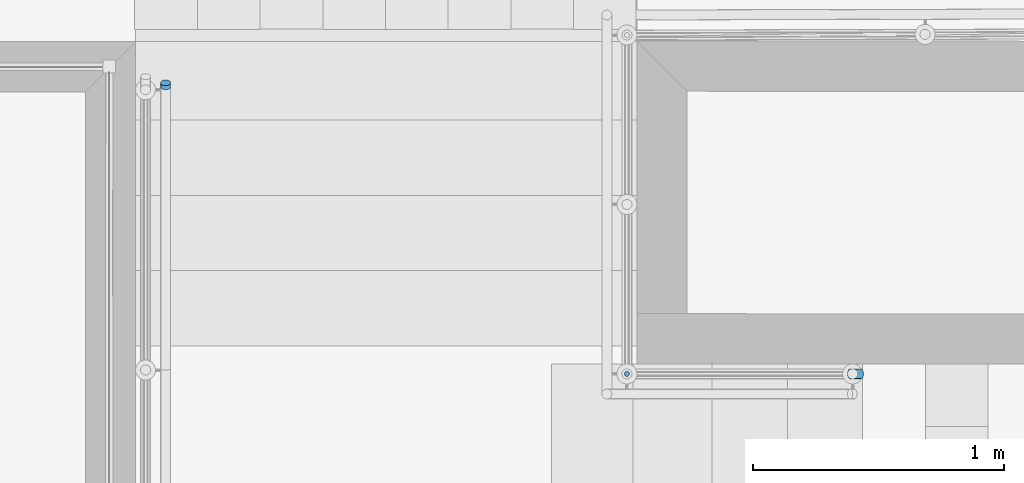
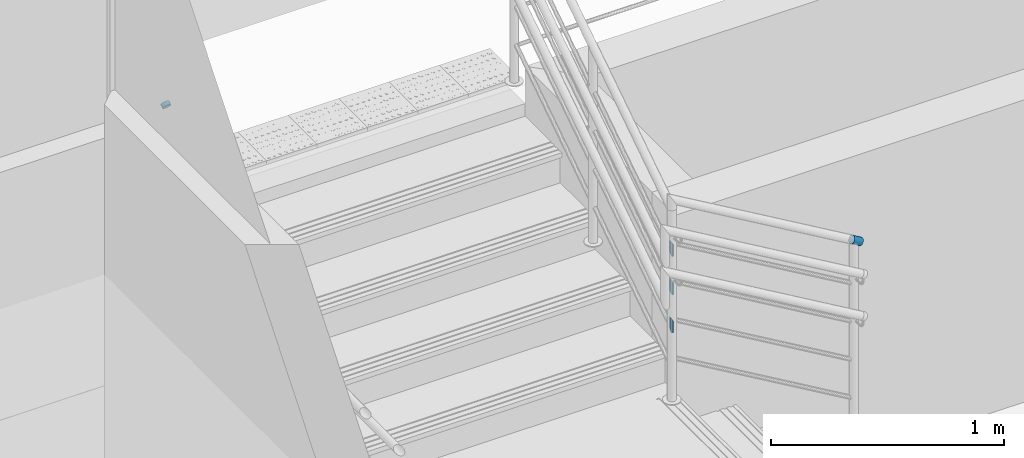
# One storey, part 144 of 237: 6 building element parts, 2 elements without a shape of their own.
"""IFC2X3 building model written with IfcOpenShell, lengths in millimetres."""

from ifc_helpers import new_model, entity, si_unit, converted_unit, derived_unit, money_unit, direction, frame, origin_with_axes, place, context, subcontext, project, spatial, faceted_brep, material, type_object, element, aggregate, save


model = new_model("IFC2X3")

# Units and contexts
model_context = context("Model", 3, precision=0.01, world=origin_with_axes(), true_north=direction((0.0, 1.0)))
body_context = subcontext(model_context, "Body", "Model", "MODEL_VIEW")
ifc_project = project(units=[si_unit("LENGTHUNIT", "METRE", prefix="MILLI"), si_unit("AREAUNIT", "SQUARE_METRE"), si_unit("VOLUMEUNIT", "CUBIC_METRE"), converted_unit("PLANEANGLEUNIT", "DEGREE", entity("IfcPlaneAngleMeasure", 0.0174532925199), si_unit("PLANEANGLEUNIT", "RADIAN"), dimensions=[0, 0, 0, 0, 0, 0, 0]), money_unit("USD"), converted_unit("TIMEUNIT", "Year", entity("IfcTimeMeasure", 31556926.0), si_unit("TIMEUNIT", "SECOND"), dimensions=[0, 0, 1, 0, 0, 0, 0]), si_unit("MASSUNIT", "GRAM", prefix="KILO"), si_unit("THERMODYNAMICTEMPERATUREUNIT", "DEGREE_CELSIUS"), si_unit("LUMINOUSINTENSITYUNIT", "LUMEN"), si_unit("ENERGYUNIT", "JOULE", prefix="MEGA"), derived_unit("THERMALCONDUCTANCEUNIT", [(si_unit("POWERUNIT", "WATT"), 1), (si_unit("LENGTHUNIT", "METRE"), -1), (si_unit("THERMODYNAMICTEMPERATUREUNIT", "KELVIN"), -1)]), derived_unit("SPECIFICHEATCAPACITYUNIT", [(si_unit("ENERGYUNIT", "JOULE"), 1), (si_unit("MASSUNIT", "GRAM", prefix="KILO"), -1), (si_unit("THERMODYNAMICTEMPERATUREUNIT", "KELVIN"), -1)]), derived_unit("MASSDENSITYUNIT", [(si_unit("MASSUNIT", "GRAM", prefix="KILO"), 1), (si_unit("VOLUMEUNIT", "CUBIC_METRE"), -1)])], contexts=[model_context])

# Site, building, storey
site_placement = place(None, origin_with_axes())
site = spatial("IfcSite", under=ifc_project, at=site_placement, Name="Local", CompositionType="ELEMENT")
building_placement = place(site_placement, origin_with_axes())
building = spatial("IfcBuilding", under=site, at=building_placement, Name="Construção", CompositionType="ELEMENT")
storey_placement = place(building_placement, origin_with_axes())
storey = spatial("IfcBuildingStorey", under=building, at=storey_placement, Name="Pavimento Térreo", CompositionType="ELEMENT", Elevation=0.0)

# Railing, building element part
railing_type = type_object("IfcRailingType", Name="Tipo de Guarda-Corpo", PredefinedType="NOTDEFINED")
railing_1_placement = place(storey_placement, frame((77071.0413397, 23732.4143775, -4865.39060156), z_axis=(0.0, 0.0, 1.0), x_axis=(1.0, 0.0, 0.0)))
railing_1 = element("IfcRailing", 1, at=railing_1_placement, inside=storey, type_object=railing_type, Name="Guarda-Corpo - 001", PredefinedType="NOTDEFINED")
ifc_material = material(Name="Aço - Inoxidável")
building_element_part_1_placement = place(railing_1_placement, origin_with_axes())
building_element_part_1 = element("IfcBuildingElementPart", 2, at=building_element_part_1_placement, material=ifc_material, Name="Aço - Inoxidável", context=body_context, shape_type="Brep", body=[
    faceted_brep([(1797.91815812, -254.940737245, 2009.93461638), (1798.22200306, -256.971998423, 2012.75161015), (1798.22200306, -240.749577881, 2024.44917707), (1797.91815812, -238.718316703, 2021.6321833), (1798.22200306, -252.909476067, 2007.11762262), (1799.12430571, -250.939933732, 2004.38622179), (1800.59765005, -249.091953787, 2001.82340611), (1802.59726926, -247.421686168, 1999.50704546), (1805.06240593, -245.979881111, 1997.50752127), (1807.91815812, -244.810347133, 1995.88558808), (1811.07775526, -243.948619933, 1994.69052751), (1814.44519457, -243.420882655, 1993.95865086), (1817.91815812, -243.243170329, 1993.71219584), (1821.39112168, -243.420882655, 1993.95865086), (1824.75856099, -243.948619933, 1994.69052751), (1827.91815812, -244.810347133, 1995.88558808), (1830.77391032, -245.979881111, 1997.50752127), (1833.23904699, -247.421686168, 1999.50704546), (1835.2386662, -249.091953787, 2001.82340611), (1836.71201054, -250.939933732, 2004.38622179), (1837.61431318, -252.909476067, 2007.11762262), (1837.91815812, -254.940737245, 2009.93461638), (1837.61431318, -256.971998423, 2012.75161015), (1836.71201054, -258.941540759, 2015.48301098), (1835.2386662, -260.789520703, 2018.04582666), (1833.23904699, -262.459788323, 2020.36218731), (1830.77391032, -263.901593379, 2022.36171149), (1827.91815812, -265.071127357, 2023.98364468), (1824.75856099, -265.932854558, 2025.17870526), (1821.39112168, -266.460591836, 2025.91058191), (1817.91815812, -266.638304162, 2026.15703693), (1814.44519457, -266.460591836, 2025.91058191), (1811.07775526, -265.932854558, 2025.17870526), (1807.91815812, -265.071127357, 2023.98364468), (1805.06240593, -263.901593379, 2022.36171149), (1802.59726926, -262.459788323, 2020.36218731), (1800.59765005, -260.789520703, 2018.04582666), (1799.12430571, -258.941540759, 2015.48301098), (1799.12430571, -242.719120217, 2027.1805779), (1800.59765005, -244.567100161, 2029.74339357), (1802.59726926, -246.237367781, 2032.05975422), (1805.06240593, -247.679172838, 2034.05927841), (1807.91815812, -248.848706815, 2035.6812116), (1811.07775526, -249.710434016, 2036.87627218), (1814.44519457, -250.238171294, 2037.60814882), (1817.91815812, -250.41588362, 2037.85460384), (1821.39112168, -250.238171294, 2037.60814882), (1824.75856099, -249.710434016, 2036.87627218), (1827.91815812, -248.848706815, 2035.6812116), (1830.77391032, -247.679172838, 2034.05927841), (1833.23904699, -246.237367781, 2032.05975422), (1835.2386662, -244.567100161, 2029.74339357), (1836.71201054, -242.719120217, 2027.1805779), (1837.61431318, -240.749577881, 2024.44917707), (1837.91815812, -238.718316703, 2021.6321833), (1837.61431318, -236.687055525, 2018.81518954), (1836.71201054, -234.71751319, 2016.0837887), (1835.2386662, -232.869533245, 2013.52097303), (1833.23904699, -231.199265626, 2011.20461238), (1830.77391032, -229.757460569, 2009.20508819), (1827.91815812, -228.587926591, 2007.583155), (1824.75856099, -227.726199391, 2006.38809443), (1821.39112168, -227.198462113, 2005.65621778), (1817.91815812, -227.020749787, 2005.40976276), (1814.44519457, -227.198462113, 2005.65621778), (1811.07775526, -227.726199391, 2006.38809443), (1807.91815812, -228.587926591, 2007.583155), (1805.06240593, -229.757460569, 2009.20508819), (1802.59726926, -231.199265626, 2011.20461238), (1800.59765005, -232.869533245, 2013.52097303), (1799.12430571, -234.71751319, 2016.0837887), (1798.22200306, -236.687055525, 2018.81518954)], [[[0, 1, 2, 3]], [[0, 4, 5, 6, 7, 8, 9, 10, 11, 12, 13, 14, 15, 16, 17, 18, 19, 20, 21, 22, 23, 24, 25, 26, 27, 28, 29, 30, 31, 32, 33, 34, 35, 36, 37, 1]], [[1, 37, 38, 2]], [[3, 2, 38, 39, 40, 41, 42, 43, 44, 45, 46, 47, 48, 49, 50, 51, 52, 53, 54, 55, 56, 57, 58, 59, 60, 61, 62, 63, 64, 65, 66, 67, 68, 69, 70, 71]], [[4, 0, 3, 71]], [[5, 4, 71, 70]], [[6, 5, 70, 69]], [[7, 6, 69, 68]], [[8, 7, 68, 67]], [[9, 8, 67, 66]], [[10, 9, 66, 65]], [[11, 10, 65, 64]], [[12, 11, 64, 63]], [[13, 12, 63, 62]], [[14, 13, 62, 61]], [[15, 14, 61, 60]], [[16, 15, 60, 59]], [[17, 16, 59, 58]], [[18, 17, 58, 57]], [[19, 18, 57, 56]], [[20, 19, 56, 55]], [[21, 20, 55, 54]], [[22, 21, 54, 53]], [[23, 22, 53, 52]], [[24, 23, 52, 51]], [[25, 24, 51, 50]], [[26, 25, 50, 49]], [[27, 26, 49, 48]], [[28, 27, 48, 47]], [[29, 28, 47, 46]], [[30, 29, 46, 45]], [[31, 30, 45, 44]], [[32, 31, 44, 43]], [[33, 32, 43, 42]], [[34, 33, 42, 41]], [[35, 34, 41, 40]], [[36, 35, 40, 39]], [[37, 36, 39, 38]]]),
])
aggregate(railing_1, [building_element_part_1])

# Railing, building element parts
railing_2_placement = place(storey_placement, frame((84562.8908804, 21657.2175927, -4868.39227091), z_axis=(0.0, 0.0, 1.0), x_axis=(1.0, 0.0, 0.0)))
railing_2 = element("IfcRailing", 3, at=railing_2_placement, inside=storey, type_object=railing_type, Name="Guarda-Corpo - 002", PredefinedType="NOTDEFINED")
building_element_part_2_placement = place(railing_2_placement, origin_with_axes())
building_element_part_2 = element("IfcBuildingElementPart", 4, at=building_element_part_2_placement, material=ifc_material, Name="Aço - Inoxidável", context=body_context, shape_type="Brep", body=[
    faceted_brep([(-2944.0517007, 695.201517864, 1056.21625671), (-2942.29432627, 694.897672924, 1059.21177185), (-2899.16811589, 694.897672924, 1033.91098177), (-2900.92549033, 695.201517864, 1030.91546663), (-2945.80907514, 694.897672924, 1053.22074157), (-2947.51305264, 693.99537028, 1050.31624365), (-2949.11185872, 692.52202594, 1047.59101463), (-2950.55691445, 690.522406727, 1045.12785924), (-2951.80431256, 688.057270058, 1043.00161919), (-2952.81615148, 685.201517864, 1041.27689921), (-2953.561687, 682.041920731, 1040.00610405), (-2954.01826639, 678.674481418, 1039.22784618), (-2954.17201674, 675.201517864, 1038.96577256), (-2954.01826639, 671.728554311, 1039.22784618), (-2953.561687, 668.361114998, 1040.00610405), (-2952.81615148, 665.201517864, 1041.27689921), (-2951.80431256, 662.34576567, 1043.00161919), (-2950.55691445, 659.880629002, 1045.12785924), (-2949.11185872, 657.881009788, 1047.59101463), (-2947.51305264, 656.407665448, 1050.31624365), (-2945.80907514, 655.505362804, 1053.22074157), (-2944.0517007, 655.201517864, 1056.21625671), (-2942.29432627, 655.505362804, 1059.21177185), (-2940.59034876, 656.407665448, 1062.11626977), (-2938.99154269, 657.881009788, 1064.84149878), (-2937.54648695, 659.880629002, 1067.30465418), (-2936.29908884, 662.34576567, 1069.43089423), (-2935.28724993, 665.201517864, 1071.15561421), (-2934.54171441, 668.361114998, 1072.42640937), (-2934.08513501, 671.728554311, 1073.20466724), (-2933.93138467, 675.201517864, 1073.46674086), (-2934.08513501, 678.674481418, 1073.20466724), (-2934.54171441, 682.041920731, 1072.42640937), (-2935.28724993, 685.201517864, 1071.15561421), (-2936.29908884, 688.057270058, 1069.43089423), (-2937.54648695, 690.522406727, 1067.30465418), (-2938.99154269, 692.52202594, 1064.84149878), (-2940.59034876, 693.99537028, 1062.11626977), (-2897.46413839, 693.99537028, 1036.81547969), (-2895.86533231, 692.52202594, 1039.54070871), (-2894.42027658, 690.522406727, 1042.0038641), (-2893.17287847, 688.057270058, 1044.13010416), (-2892.16103955, 685.201517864, 1045.85482413), (-2891.41550403, 682.041920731, 1047.12561929), (-2890.95892464, 678.674481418, 1047.90387717), (-2890.8051743, 675.201517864, 1048.16595078), (-2890.95892464, 671.728554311, 1047.90387717), (-2891.41550403, 668.361114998, 1047.12561929), (-2892.16103955, 665.201517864, 1045.85482413), (-2893.17287847, 662.34576567, 1044.13010416), (-2894.42027658, 659.880629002, 1042.0038641), (-2895.86533231, 657.881009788, 1039.54070871), (-2897.46413839, 656.407665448, 1036.81547969), (-2899.16811589, 655.505362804, 1033.91098177), (-2900.92549033, 655.201517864, 1030.91546663), (-2902.68286476, 655.505362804, 1027.91995149), (-2904.38684227, 656.407665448, 1025.01545357), (-2905.98564834, 657.881009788, 1022.29022456), (-2907.43070408, 659.880629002, 1019.82706916), (-2908.67810219, 662.34576567, 1017.70082911), (-2909.68994111, 665.201517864, 1015.97610913), (-2910.43547662, 668.361114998, 1014.70531397), (-2910.89205602, 671.728554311, 1013.9270561), (-2911.04580636, 675.201517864, 1013.66498248), (-2910.89205602, 678.674481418, 1013.9270561), (-2910.43547662, 682.041920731, 1014.70531397), (-2909.68994111, 685.201517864, 1015.97610913), (-2908.67810219, 688.057270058, 1017.70082911), (-2907.43070408, 690.522406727, 1019.82706916), (-2905.98564834, 692.52202594, 1022.29022456), (-2904.38684227, 693.99537028, 1025.01545357), (-2902.68286476, 694.897672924, 1027.91995149)], [[[0, 1, 2, 3]], [[0, 4, 5, 6, 7, 8, 9, 10, 11, 12, 13, 14, 15, 16, 17, 18, 19, 20, 21, 22, 23, 24, 25, 26, 27, 28, 29, 30, 31, 32, 33, 34, 35, 36, 37, 1]], [[1, 37, 38, 2]], [[3, 2, 38, 39, 40, 41, 42, 43, 44, 45, 46, 47, 48, 49, 50, 51, 52, 53, 54, 55, 56, 57, 58, 59, 60, 61, 62, 63, 64, 65, 66, 67, 68, 69, 70, 71]], [[4, 0, 3, 71]], [[5, 4, 71, 70]], [[6, 5, 70, 69]], [[7, 6, 69, 68]], [[8, 7, 68, 67]], [[9, 8, 67, 66]], [[10, 9, 66, 65]], [[11, 10, 65, 64]], [[12, 11, 64, 63]], [[13, 12, 63, 62]], [[14, 13, 62, 61]], [[15, 14, 61, 60]], [[16, 15, 60, 59]], [[17, 16, 59, 58]], [[18, 17, 58, 57]], [[19, 18, 57, 56]], [[20, 19, 56, 55]], [[21, 20, 55, 54]], [[22, 21, 54, 53]], [[23, 22, 53, 52]], [[24, 23, 52, 51]], [[25, 24, 51, 50]], [[26, 25, 50, 49]], [[27, 26, 49, 48]], [[28, 27, 48, 47]], [[29, 28, 47, 46]], [[30, 29, 46, 45]], [[31, 30, 45, 44]], [[32, 31, 44, 43]], [[33, 32, 43, 42]], [[34, 33, 42, 41]], [[35, 34, 41, 40]], [[36, 35, 40, 39]], [[37, 36, 39, 38]]]),
])
building_element_part_3_placement = place(railing_2_placement, origin_with_axes())
building_element_part_3 = element("IfcBuildingElementPart", 5, at=building_element_part_3_placement, material=ifc_material, Name="Aço - Inoxidável", context=body_context, shape_type="Brep", body=[
    faceted_brep([(-3832.19483234, 685.049765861, 920.018512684), (-3833.93131303, 685.201710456, 920.299737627), (-3833.93131303, 685.201517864, 951.468410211), (-3832.19483234, 685.049582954, 948.436415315), (-3835.6677959, 685.049812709, 920.018599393), (-3830.51111592, 684.598596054, 919.18347013), (-3828.93132263, 683.861910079, 917.819983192), (-3827.5034537, 682.862092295, 915.96948171), (-3826.27089419, 681.629522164, 913.688193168), (-3825.27109482, 680.20165109, 911.045434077), (-3824.53443396, 678.621864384, 908.121503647), (-3824.0832947, 676.938162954, 905.005243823), (-3823.93138467, 675.201704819, 901.791339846), (-3824.08331958, 673.465250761, 898.577443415), (-3824.53448297, 671.781561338, 895.461205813), (-3825.27116645, 670.201793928, 892.537311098), (-3826.27098629, 668.773948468, 889.894599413), (-3827.50356345, 667.541409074, 887.613367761), (-3828.93144671, 666.541625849, 885.762930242), (-3830.51125056, 665.804976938, 884.399511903), (-3832.19497345, 665.353845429, 883.564540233), (-3833.93145631, 665.201939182, 883.283386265), (-3835.667937, 665.353874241, 883.564593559), (-3837.35165342, 665.805034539, 884.399618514), (-3838.93144671, 666.541712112, 885.763089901), (-3840.35931565, 667.541523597, 887.613579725), (-3841.59187515, 668.774090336, 889.894861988), (-3842.59167453, 670.201961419, 892.537621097), (-3843.32833538, 671.781751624, 895.461558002), (-3843.77947464, 673.465459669, 898.57783007), (-3843.93138467, 675.20192672, 901.791750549), (-3843.77944976, 676.938390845, 905.005665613), (-3843.32828638, 678.622090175, 908.12192155), (-3842.59160289, 680.201866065, 911.04583196), (-3841.59178305, 681.629717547, 913.68855479), (-3840.35920589, 682.862259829, 915.969791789), (-3838.93132263, 683.862042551, 917.820228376), (-3837.35151879, 684.59868771, 919.18363977), (-3835.6677959, 685.049607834, 954.500405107), (-3838.93144671, 666.541299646, 960.198691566), (-3837.35165342, 665.804616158, 957.440274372), (-3835.667937, 665.353452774, 954.500405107), (-3833.93145631, 665.201517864, 951.468410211), (-3832.19497345, 665.353427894, 948.436415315), (-3830.51125056, 665.804567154, 945.49654605), (-3828.93144671, 666.541228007, 942.738128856), (-3827.50356345, 667.541027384, 940.244976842), (-3826.27098629, 668.773586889, 938.092843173), (-3825.27116645, 670.201455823, 936.347119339), (-3824.53448297, 671.781249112, 935.060848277), (-3824.08331958, 673.464965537, 934.273112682), (-3823.93138467, 675.201446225, 934.0078475), (-3824.0832947, 676.93792909, 934.273112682), (-3824.53443396, 678.621651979, 935.060848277), (-3825.27109482, 680.201455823, 936.347119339), (-3826.27089419, 681.629339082, 938.092843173), (-3827.5034537, 682.861916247, 940.244976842), (-3828.93132263, 683.861736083, 942.738128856), (-3830.51111592, 684.59841957, 945.49654605), (-3837.35151879, 684.598468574, 957.440274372), (-3838.93132263, 683.861807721, 960.198691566), (-3840.35920589, 682.862008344, 962.691843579), (-3841.59178305, 681.62944884, 964.843977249), (-3842.59160289, 680.201579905, 966.589701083), (-3843.32828638, 678.621786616, 967.875972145), (-3843.77944976, 676.938070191, 968.66370774), (-3843.93138467, 675.201589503, 968.928972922), (-3843.77947464, 673.465106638, 968.66370774), (-3843.32833538, 671.781383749, 967.875972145), (-3842.59167453, 670.201579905, 966.589701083), (-3841.59187515, 668.773696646, 964.843977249), (-3840.35931565, 667.541119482, 962.691843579)], [[[0, 1, 2, 3]], [[4, 1, 0, 5, 6, 7, 8, 9, 10, 11, 12, 13, 14, 15, 16, 17, 18, 19, 20, 21, 22, 23, 24, 25, 26, 27, 28, 29, 30, 31, 32, 33, 34, 35, 36, 37]], [[1, 4, 38, 2]], [[39, 40, 41, 42, 43, 44, 45, 46, 47, 48, 49, 50, 51, 52, 53, 54, 55, 56, 57, 58, 3, 2, 38, 59, 60, 61, 62, 63, 64, 65, 66, 67, 68, 69, 70, 71]], [[5, 0, 3, 58]], [[6, 5, 58, 57]], [[7, 6, 57, 56]], [[8, 7, 56, 55]], [[9, 8, 55, 54]], [[10, 9, 54, 53]], [[11, 10, 53, 52]], [[12, 11, 52, 51]], [[13, 12, 51, 50]], [[14, 13, 50, 49]], [[15, 14, 49, 48]], [[16, 15, 48, 47]], [[17, 16, 47, 46]], [[18, 17, 46, 45]], [[19, 18, 45, 44]], [[20, 19, 44, 43]], [[21, 20, 43, 42]], [[22, 21, 42, 41]], [[23, 22, 41, 40]], [[24, 23, 40, 39]], [[25, 24, 39, 71]], [[26, 25, 71, 70]], [[27, 26, 70, 69]], [[28, 27, 69, 68]], [[29, 28, 68, 67]], [[30, 29, 67, 66]], [[31, 30, 66, 65]], [[32, 31, 65, 64]], [[33, 32, 64, 63]], [[34, 33, 63, 62]], [[35, 34, 62, 61]], [[36, 35, 61, 60]], [[37, 36, 60, 59]], [[4, 37, 59, 38]]]),
])
building_element_part_4_placement = place(railing_2_placement, origin_with_axes())
building_element_part_4 = element("IfcBuildingElementPart", 6, at=building_element_part_4_placement, material=ifc_material, Name="Aço - Inoxidável", context=body_context, shape_type="Brep", body=[
    faceted_brep([(-3832.19483234, 685.049765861, 920.018512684), (-3833.93131303, 685.201710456, 920.299737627), (-3833.93131303, 685.201517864, 951.468410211), (-3832.19483234, 685.049582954, 948.436415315), (-3835.6677959, 685.049812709, 920.018599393), (-3830.51111592, 684.598596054, 919.18347013), (-3828.93132263, 683.861910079, 917.819983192), (-3827.5034537, 682.862092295, 915.96948171), (-3826.27089419, 681.629522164, 913.688193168), (-3825.27109482, 680.20165109, 911.045434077), (-3824.53443396, 678.621864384, 908.121503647), (-3824.0832947, 676.938162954, 905.005243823), (-3823.93138467, 675.201704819, 901.791339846), (-3824.08331958, 673.465250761, 898.577443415), (-3824.53448297, 671.781561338, 895.461205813), (-3825.27116645, 670.201793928, 892.537311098), (-3826.27098629, 668.773948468, 889.894599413), (-3827.50356345, 667.541409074, 887.613367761), (-3828.93144671, 666.541625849, 885.762930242), (-3830.51125056, 665.804976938, 884.399511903), (-3832.19497345, 665.353845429, 883.564540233), (-3833.93145631, 665.201939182, 883.283386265), (-3835.667937, 665.353874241, 883.564593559), (-3837.35165342, 665.805034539, 884.399618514), (-3838.93144671, 666.541712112, 885.763089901), (-3840.35931565, 667.541523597, 887.613579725), (-3841.59187515, 668.774090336, 889.894861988), (-3842.59167453, 670.201961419, 892.537621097), (-3843.32833538, 671.781751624, 895.461558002), (-3843.77947464, 673.465459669, 898.57783007), (-3843.93138467, 675.20192672, 901.791750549), (-3843.77944976, 676.938390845, 905.005665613), (-3843.32828638, 678.622090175, 908.12192155), (-3842.59160289, 680.201866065, 911.04583196), (-3841.59178305, 681.629717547, 913.68855479), (-3840.35920589, 682.862259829, 915.969791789), (-3838.93132263, 683.862042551, 917.820228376), (-3837.35151879, 684.59868771, 919.18363977), (-3835.6677959, 685.049607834, 954.500405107), (-3838.93144671, 666.541299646, 960.198691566), (-3837.35165342, 665.804616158, 957.440274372), (-3835.667937, 665.353452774, 954.500405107), (-3833.93145631, 665.201517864, 951.468410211), (-3832.19497345, 665.353427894, 948.436415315), (-3830.51125056, 665.804567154, 945.49654605), (-3828.93144671, 666.541228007, 942.738128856), (-3827.50356345, 667.541027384, 940.244976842), (-3826.27098629, 668.773586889, 938.092843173), (-3825.27116645, 670.201455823, 936.347119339), (-3824.53448297, 671.781249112, 935.060848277), (-3824.08331958, 673.464965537, 934.273112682), (-3823.93138467, 675.201446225, 934.0078475), (-3824.0832947, 676.93792909, 934.273112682), (-3824.53443396, 678.621651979, 935.060848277), (-3825.27109482, 680.201455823, 936.347119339), (-3826.27089419, 681.629339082, 938.092843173), (-3827.5034537, 682.861916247, 940.244976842), (-3828.93132263, 683.861736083, 942.738128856), (-3830.51111592, 684.59841957, 945.49654605), (-3837.35151879, 684.598468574, 957.440274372), (-3838.93132263, 683.861807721, 960.198691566), (-3840.35920589, 682.862008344, 962.691843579), (-3841.59178305, 681.62944884, 964.843977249), (-3842.59160289, 680.201579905, 966.589701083), (-3843.32828638, 678.621786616, 967.875972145), (-3843.77944976, 676.938070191, 968.66370774), (-3843.93138467, 675.201589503, 968.928972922), (-3843.77947464, 673.465106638, 968.66370774), (-3843.32833538, 671.781383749, 967.875972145), (-3842.59167453, 670.201579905, 966.589701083), (-3841.59187515, 668.773696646, 964.843977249), (-3840.35931565, 667.541119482, 962.691843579)], [[[0, 1, 2, 3]], [[4, 1, 0, 5, 6, 7, 8, 9, 10, 11, 12, 13, 14, 15, 16, 17, 18, 19, 20, 21, 22, 23, 24, 25, 26, 27, 28, 29, 30, 31, 32, 33, 34, 35, 36, 37]], [[1, 4, 38, 2]], [[39, 40, 41, 42, 43, 44, 45, 46, 47, 48, 49, 50, 51, 52, 53, 54, 55, 56, 57, 58, 3, 2, 38, 59, 60, 61, 62, 63, 64, 65, 66, 67, 68, 69, 70, 71]], [[5, 0, 3, 58]], [[6, 5, 58, 57]], [[7, 6, 57, 56]], [[8, 7, 56, 55]], [[9, 8, 55, 54]], [[10, 9, 54, 53]], [[11, 10, 53, 52]], [[12, 11, 52, 51]], [[13, 12, 51, 50]], [[14, 13, 50, 49]], [[15, 14, 49, 48]], [[16, 15, 48, 47]], [[17, 16, 47, 46]], [[18, 17, 46, 45]], [[19, 18, 45, 44]], [[20, 19, 44, 43]], [[21, 20, 43, 42]], [[22, 21, 42, 41]], [[23, 22, 41, 40]], [[24, 23, 40, 39]], [[25, 24, 39, 71]], [[26, 25, 71, 70]], [[27, 26, 70, 69]], [[28, 27, 69, 68]], [[29, 28, 68, 67]], [[30, 29, 67, 66]], [[31, 30, 66, 65]], [[32, 31, 65, 64]], [[33, 32, 64, 63]], [[34, 33, 63, 62]], [[35, 34, 62, 61]], [[36, 35, 61, 60]], [[37, 36, 60, 59]], [[4, 37, 59, 38]]]),
])
building_element_part_5_placement = place(railing_2_placement, origin_with_axes())
building_element_part_5 = element("IfcBuildingElementPart", 7, at=building_element_part_5_placement, material=ifc_material, Name="Aço - Inoxidável", context=body_context, shape_type="Brep", body=[
    faceted_brep([(-3832.19483234, 685.049765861, 1120.01851268), (-3833.93131303, 685.201710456, 1120.29973763), (-3833.93131303, 685.201517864, 1151.46841021), (-3832.19483234, 685.049582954, 1148.43641532), (-3835.6677959, 685.049812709, 1120.01859939), (-3830.51111592, 684.598596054, 1119.18347013), (-3828.93132263, 683.861910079, 1117.81998319), (-3827.5034537, 682.862092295, 1115.96948171), (-3826.27089419, 681.629522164, 1113.68819317), (-3825.27109482, 680.20165109, 1111.04543408), (-3824.53443396, 678.621864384, 1108.12150365), (-3824.0832947, 676.938162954, 1105.00524382), (-3823.93138467, 675.201704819, 1101.79133985), (-3824.08331958, 673.465250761, 1098.57744341), (-3824.53448297, 671.781561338, 1095.46120581), (-3825.27116645, 670.201793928, 1092.5373111), (-3826.27098629, 668.773948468, 1089.89459941), (-3827.50356345, 667.541409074, 1087.61336776), (-3828.93144671, 666.541625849, 1085.76293024), (-3830.51125056, 665.804976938, 1084.3995119), (-3832.19497345, 665.353845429, 1083.56454023), (-3833.93145631, 665.201939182, 1083.28338627), (-3835.667937, 665.353874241, 1083.56459356), (-3837.35165342, 665.805034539, 1084.39961851), (-3838.93144671, 666.541712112, 1085.7630899), (-3840.35931565, 667.541523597, 1087.61357972), (-3841.59187515, 668.774090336, 1089.89486199), (-3842.59167453, 670.201961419, 1092.5376211), (-3843.32833538, 671.781751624, 1095.461558), (-3843.77947464, 673.465459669, 1098.57783007), (-3843.93138467, 675.20192672, 1101.79175055), (-3843.77944976, 676.938390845, 1105.00566561), (-3843.32828638, 678.622090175, 1108.12192155), (-3842.59160289, 680.201866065, 1111.04583196), (-3841.59178305, 681.629717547, 1113.68855479), (-3840.35920589, 682.862259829, 1115.96979179), (-3838.93132263, 683.862042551, 1117.82022838), (-3837.35151879, 684.59868771, 1119.18363977), (-3835.6677959, 685.049607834, 1154.50040511), (-3838.93144671, 666.541299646, 1160.19869157), (-3837.35165342, 665.804616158, 1157.44027437), (-3835.667937, 665.353452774, 1154.50040511), (-3833.93145631, 665.201517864, 1151.46841021), (-3832.19497345, 665.353427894, 1148.43641532), (-3830.51125056, 665.804567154, 1145.49654605), (-3828.93144671, 666.541228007, 1142.73812886), (-3827.50356345, 667.541027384, 1140.24497684), (-3826.27098629, 668.773586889, 1138.09284317), (-3825.27116645, 670.201455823, 1136.34711934), (-3824.53448297, 671.781249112, 1135.06084828), (-3824.08331958, 673.464965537, 1134.27311268), (-3823.93138467, 675.201446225, 1134.0078475), (-3824.0832947, 676.93792909, 1134.27311268), (-3824.53443396, 678.621651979, 1135.06084828), (-3825.27109482, 680.201455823, 1136.34711934), (-3826.27089419, 681.629339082, 1138.09284317), (-3827.5034537, 682.861916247, 1140.24497684), (-3828.93132263, 683.861736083, 1142.73812886), (-3830.51111592, 684.59841957, 1145.49654605), (-3837.35151879, 684.598468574, 1157.44027437), (-3838.93132263, 683.861807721, 1160.19869157), (-3840.35920589, 682.862008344, 1162.69184358), (-3841.59178305, 681.62944884, 1164.84397725), (-3842.59160289, 680.201579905, 1166.58970108), (-3843.32828638, 678.621786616, 1167.87597214), (-3843.77944976, 676.938070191, 1168.66370774), (-3843.93138467, 675.201589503, 1168.92897292), (-3843.77947464, 673.465106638, 1168.66370774), (-3843.32833538, 671.781383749, 1167.87597214), (-3842.59167453, 670.201579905, 1166.58970108), (-3841.59187515, 668.773696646, 1164.84397725), (-3840.35931565, 667.541119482, 1162.69184358)], [[[0, 1, 2, 3]], [[4, 1, 0, 5, 6, 7, 8, 9, 10, 11, 12, 13, 14, 15, 16, 17, 18, 19, 20, 21, 22, 23, 24, 25, 26, 27, 28, 29, 30, 31, 32, 33, 34, 35, 36, 37]], [[1, 4, 38, 2]], [[39, 40, 41, 42, 43, 44, 45, 46, 47, 48, 49, 50, 51, 52, 53, 54, 55, 56, 57, 58, 3, 2, 38, 59, 60, 61, 62, 63, 64, 65, 66, 67, 68, 69, 70, 71]], [[5, 0, 3, 58]], [[6, 5, 58, 57]], [[7, 6, 57, 56]], [[8, 7, 56, 55]], [[9, 8, 55, 54]], [[10, 9, 54, 53]], [[11, 10, 53, 52]], [[12, 11, 52, 51]], [[13, 12, 51, 50]], [[14, 13, 50, 49]], [[15, 14, 49, 48]], [[16, 15, 48, 47]], [[17, 16, 47, 46]], [[18, 17, 46, 45]], [[19, 18, 45, 44]], [[20, 19, 44, 43]], [[21, 20, 43, 42]], [[22, 21, 42, 41]], [[23, 22, 41, 40]], [[24, 23, 40, 39]], [[25, 24, 39, 71]], [[26, 25, 71, 70]], [[27, 26, 70, 69]], [[28, 27, 69, 68]], [[29, 28, 68, 67]], [[30, 29, 67, 66]], [[31, 30, 66, 65]], [[32, 31, 65, 64]], [[33, 32, 64, 63]], [[34, 33, 63, 62]], [[35, 34, 62, 61]], [[36, 35, 61, 60]], [[37, 36, 60, 59]], [[4, 37, 59, 38]]]),
])
building_element_part_6_placement = place(railing_2_placement, origin_with_axes())
building_element_part_6 = element("IfcBuildingElementPart", 8, at=building_element_part_6_placement, material=ifc_material, Name="Aço - Inoxidável", context=body_context, shape_type="Brep", body=[
    faceted_brep([(-3832.19483234, 685.049765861, 1320.01851268), (-3833.93131303, 685.201710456, 1320.29973763), (-3833.93131303, 685.201517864, 1351.46841021), (-3832.19483234, 685.049582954, 1348.43641532), (-3835.6677959, 685.049812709, 1320.01859939), (-3830.51111592, 684.598596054, 1319.18347013), (-3828.93132263, 683.861910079, 1317.81998319), (-3827.5034537, 682.862092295, 1315.96948171), (-3826.27089419, 681.629522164, 1313.68819317), (-3825.27109482, 680.20165109, 1311.04543408), (-3824.53443396, 678.621864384, 1308.12150365), (-3824.0832947, 676.938162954, 1305.00524382), (-3823.93138467, 675.201704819, 1301.79133985), (-3824.08331958, 673.465250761, 1298.57744341), (-3824.53448297, 671.781561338, 1295.46120581), (-3825.27116645, 670.201793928, 1292.5373111), (-3826.27098629, 668.773948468, 1289.89459941), (-3827.50356345, 667.541409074, 1287.61336776), (-3828.93144671, 666.541625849, 1285.76293024), (-3830.51125056, 665.804976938, 1284.3995119), (-3832.19497345, 665.353845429, 1283.56454023), (-3833.93145631, 665.201939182, 1283.28338627), (-3835.667937, 665.353874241, 1283.56459356), (-3837.35165342, 665.805034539, 1284.39961851), (-3838.93144671, 666.541712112, 1285.7630899), (-3840.35931565, 667.541523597, 1287.61357972), (-3841.59187515, 668.774090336, 1289.89486199), (-3842.59167453, 670.201961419, 1292.5376211), (-3843.32833538, 671.781751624, 1295.461558), (-3843.77947464, 673.465459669, 1298.57783007), (-3843.93138467, 675.20192672, 1301.79175055), (-3843.77944976, 676.938390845, 1305.00566561), (-3843.32828638, 678.622090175, 1308.12192155), (-3842.59160289, 680.201866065, 1311.04583196), (-3841.59178305, 681.629717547, 1313.68855479), (-3840.35920589, 682.862259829, 1315.96979179), (-3838.93132263, 683.862042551, 1317.82022838), (-3837.35151879, 684.59868771, 1319.18363977), (-3835.6677959, 685.049607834, 1354.50040511), (-3838.93144671, 666.541299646, 1360.19869157), (-3837.35165342, 665.804616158, 1357.44027437), (-3835.667937, 665.353452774, 1354.50040511), (-3833.93145631, 665.201517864, 1351.46841021), (-3832.19497345, 665.353427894, 1348.43641532), (-3830.51125056, 665.804567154, 1345.49654605), (-3828.93144671, 666.541228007, 1342.73812886), (-3827.50356345, 667.541027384, 1340.24497684), (-3826.27098629, 668.773586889, 1338.09284317), (-3825.27116645, 670.201455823, 1336.34711934), (-3824.53448297, 671.781249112, 1335.06084828), (-3824.08331958, 673.464965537, 1334.27311268), (-3823.93138467, 675.201446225, 1334.0078475), (-3824.0832947, 676.93792909, 1334.27311268), (-3824.53443396, 678.621651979, 1335.06084828), (-3825.27109482, 680.201455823, 1336.34711934), (-3826.27089419, 681.629339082, 1338.09284317), (-3827.5034537, 682.861916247, 1340.24497684), (-3828.93132263, 683.861736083, 1342.73812886), (-3830.51111592, 684.59841957, 1345.49654605), (-3837.35151879, 684.598468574, 1357.44027437), (-3838.93132263, 683.861807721, 1360.19869157), (-3840.35920589, 682.862008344, 1362.69184358), (-3841.59178305, 681.62944884, 1364.84397725), (-3842.59160289, 680.201579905, 1366.58970108), (-3843.32828638, 678.621786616, 1367.87597214), (-3843.77944976, 676.938070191, 1368.66370774), (-3843.93138467, 675.201589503, 1368.92897292), (-3843.77947464, 673.465106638, 1368.66370774), (-3843.32833538, 671.781383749, 1367.87597214), (-3842.59167453, 670.201579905, 1366.58970108), (-3841.59187515, 668.773696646, 1364.84397725), (-3840.35931565, 667.541119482, 1362.69184358)], [[[0, 1, 2, 3]], [[4, 1, 0, 5, 6, 7, 8, 9, 10, 11, 12, 13, 14, 15, 16, 17, 18, 19, 20, 21, 22, 23, 24, 25, 26, 27, 28, 29, 30, 31, 32, 33, 34, 35, 36, 37]], [[1, 4, 38, 2]], [[39, 40, 41, 42, 43, 44, 45, 46, 47, 48, 49, 50, 51, 52, 53, 54, 55, 56, 57, 58, 3, 2, 38, 59, 60, 61, 62, 63, 64, 65, 66, 67, 68, 69, 70, 71]], [[5, 0, 3, 58]], [[6, 5, 58, 57]], [[7, 6, 57, 56]], [[8, 7, 56, 55]], [[9, 8, 55, 54]], [[10, 9, 54, 53]], [[11, 10, 53, 52]], [[12, 11, 52, 51]], [[13, 12, 51, 50]], [[14, 13, 50, 49]], [[15, 14, 49, 48]], [[16, 15, 48, 47]], [[17, 16, 47, 46]], [[18, 17, 46, 45]], [[19, 18, 45, 44]], [[20, 19, 44, 43]], [[21, 20, 43, 42]], [[22, 21, 42, 41]], [[23, 22, 41, 40]], [[24, 23, 40, 39]], [[25, 24, 39, 71]], [[26, 25, 71, 70]], [[27, 26, 70, 69]], [[28, 27, 69, 68]], [[29, 28, 68, 67]], [[30, 29, 67, 66]], [[31, 30, 66, 65]], [[32, 31, 65, 64]], [[33, 32, 64, 63]], [[34, 33, 63, 62]], [[35, 34, 62, 61]], [[36, 35, 61, 60]], [[37, 36, 60, 59]], [[4, 37, 59, 38]]]),
])
aggregate(railing_2, [building_element_part_2, building_element_part_3, building_element_part_4, building_element_part_5, building_element_part_6])

save(model, "model.ifc")
